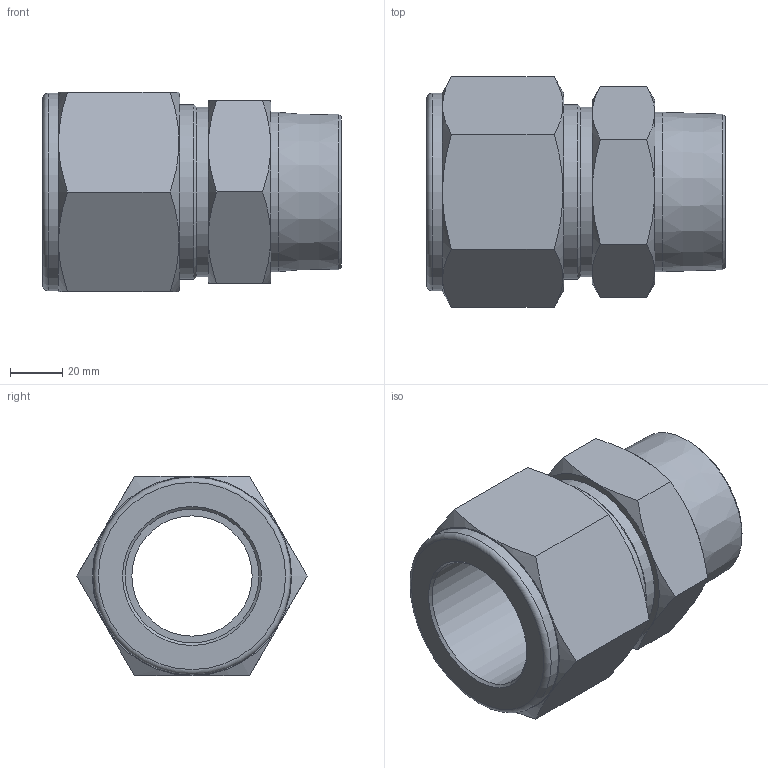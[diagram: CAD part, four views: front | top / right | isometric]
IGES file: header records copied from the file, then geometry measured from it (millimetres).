
Global section: file name: No Iges File Name specified; native system: Autodesk Inventor 2012; preprocessor: AutoDesk Inventor Iges Exporter R2012; author: 硅己绕,,1; organization: 1; date: 20150603.093614; units: millimetre
Bounding box: 114.04 x 87.99 x 76.2 mm (x, y, z)
Volume: 256383.8 mm3; surface area: 51289.3 mm2
Topology: 1 solids, 1 shells, 45 faces, 93 edges, 55 vertices
Faces by surface type: plane 19, cone 17, revolution 4, cylinder 4, torus 1
Full cylindrical faces by diameter (mm): 60.896 x1, 64.7 x1, 66.64 x1, 75.5 x1
